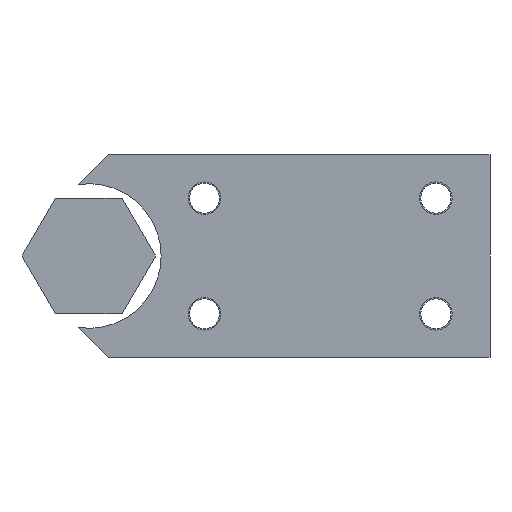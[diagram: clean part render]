
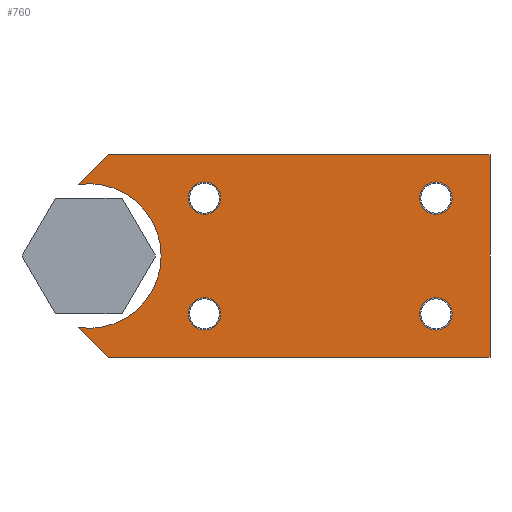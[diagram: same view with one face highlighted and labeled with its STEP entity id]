
A CAD part, left-side view. The second image highlights one B-rep face of the part: STEP entity #760.
In plain terms, the highlighted planar face has unit normal (-1, 0, 0).
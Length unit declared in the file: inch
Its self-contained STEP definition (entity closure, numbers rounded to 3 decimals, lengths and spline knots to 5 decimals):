
#475=DIRECTION('',(0.,-0.707,-0.707));
#476=VECTOR('',#475,0.36244);
#477=CARTESIAN_POINT('',(-2.8125,8.13687,-0.61872));
#478=LINE('',#477,#476);
#479=CARTESIAN_POINT('',(-2.8125,8.04848,0.));
#480=DIRECTION('',(1.,0.,0.));
#481=DIRECTION('',(0.,0.141,0.99));
#482=AXIS2_PLACEMENT_3D('',#479,#480,#481);
#484=DIRECTION('',(0.,0.707,-0.707));
#485=VECTOR('',#484,0.36244);
#486=CARTESIAN_POINT('',(-2.8125,7.88059,0.875));
#487=LINE('',#486,#485);
#488=DIRECTION('',(0.,1.,0.));
#489=VECTOR('',#488,3.29961);
#490=CARTESIAN_POINT('',(-2.8125,4.58098,0.875));
#491=LINE('',#490,#489);
#492=DIRECTION('',(0.,0.,1.));
#493=VECTOR('',#492,1.75);
#494=CARTESIAN_POINT('',(-2.8125,4.58098,-0.875));
#495=LINE('',#494,#493);
#496=DIRECTION('',(0.,-1.,0.));
#497=VECTOR('',#496,3.29961);
#498=CARTESIAN_POINT('',(-2.8125,7.88059,-0.875));
#499=LINE('',#498,#497);
#500=CARTESIAN_POINT('',(-2.8125,7.04848,-0.5));
#501=DIRECTION('',(1.,0.,0.));
#502=DIRECTION('',(0.,-1.,0.));
#503=AXIS2_PLACEMENT_3D('',#500,#501,#502);
#505=CARTESIAN_POINT('',(-2.8125,7.04848,-0.5));
#506=DIRECTION('',(1.,0.,0.));
#507=DIRECTION('',(0.,1.,0.));
#508=AXIS2_PLACEMENT_3D('',#505,#506,#507);
#510=CARTESIAN_POINT('',(-2.8125,5.04848,-0.5));
#511=DIRECTION('',(1.,0.,0.));
#512=DIRECTION('',(0.,-1.,0.));
#513=AXIS2_PLACEMENT_3D('',#510,#511,#512);
#515=CARTESIAN_POINT('',(-2.8125,5.04848,-0.5));
#516=DIRECTION('',(1.,0.,0.));
#517=DIRECTION('',(0.,1.,0.));
#518=AXIS2_PLACEMENT_3D('',#515,#516,#517);
#520=CARTESIAN_POINT('',(-2.8125,5.04848,0.5));
#521=DIRECTION('',(1.,0.,0.));
#522=DIRECTION('',(0.,-1.,0.));
#523=AXIS2_PLACEMENT_3D('',#520,#521,#522);
#525=CARTESIAN_POINT('',(-2.8125,5.04848,0.5));
#526=DIRECTION('',(1.,0.,0.));
#527=DIRECTION('',(0.,1.,0.));
#528=AXIS2_PLACEMENT_3D('',#525,#526,#527);
#530=CARTESIAN_POINT('',(-2.8125,7.04848,0.5));
#531=DIRECTION('',(1.,0.,0.));
#532=DIRECTION('',(0.,-1.,0.));
#533=AXIS2_PLACEMENT_3D('',#530,#531,#532);
#535=CARTESIAN_POINT('',(-2.8125,7.04848,0.5));
#536=DIRECTION('',(1.,0.,0.));
#537=DIRECTION('',(0.,1.,0.));
#538=AXIS2_PLACEMENT_3D('',#535,#536,#537);
#577=CARTESIAN_POINT('',(-2.8125,8.13687,-0.61872));
#579=VERTEX_POINT('',#577);
#582=CARTESIAN_POINT('',(-2.8125,7.88059,-0.875));
#583=VERTEX_POINT('',#582);
#584=CARTESIAN_POINT('',(-2.8125,8.13687,0.61872));
#585=VERTEX_POINT('',#584);
#590=CARTESIAN_POINT('',(-2.8125,4.58098,-0.875));
#591=VERTEX_POINT('',#590);
#592=CARTESIAN_POINT('',(-2.8125,7.88059,0.875));
#594=VERTEX_POINT('',#592);
#598=CARTESIAN_POINT('',(-2.8125,4.58098,0.875));
#599=VERTEX_POINT('',#598);
#600=CARTESIAN_POINT('',(-2.8125,7.18911,-0.5));
#602=VERTEX_POINT('',#600);
#604=CARTESIAN_POINT('',(-2.8125,6.90786,-0.5));
#606=VERTEX_POINT('',#604);
#608=CARTESIAN_POINT('',(-2.8125,7.18911,0.5));
#610=VERTEX_POINT('',#608);
#612=CARTESIAN_POINT('',(-2.8125,6.90786,0.5));
#614=VERTEX_POINT('',#612);
#616=CARTESIAN_POINT('',(-2.8125,5.18911,-0.5));
#618=VERTEX_POINT('',#616);
#620=CARTESIAN_POINT('',(-2.8125,4.90786,-0.5));
#622=VERTEX_POINT('',#620);
#624=CARTESIAN_POINT('',(-2.8125,5.18911,0.5));
#626=VERTEX_POINT('',#624);
#628=CARTESIAN_POINT('',(-2.8125,4.90786,0.5));
#630=VERTEX_POINT('',#628);
#720=CARTESIAN_POINT('',(-2.8125,6.45176,0.));
#721=DIRECTION('',(1.,0.,0.));
#722=DIRECTION('',(0.,-1.,0.));
#723=AXIS2_PLACEMENT_3D('',#720,#721,#722);
#724=PLANE('',#723);
#725=ORIENTED_EDGE('',*,*,#639,.F.);
#726=ORIENTED_EDGE('',*,*,#658,.F.);
#728=ORIENTED_EDGE('',*,*,#727,.F.);
#730=ORIENTED_EDGE('',*,*,#729,.F.);
#732=ORIENTED_EDGE('',*,*,#731,.F.);
#734=ORIENTED_EDGE('',*,*,#733,.F.);
#735=EDGE_LOOP('',(#725,#726,#728,#730,#732,#734));
#736=FACE_OUTER_BOUND('',#735,.F.);
#738=ORIENTED_EDGE('',*,*,#737,.F.);
#740=ORIENTED_EDGE('',*,*,#739,.F.);
#741=EDGE_LOOP('',(#738,#740));
#742=FACE_BOUND('',#741,.F.);
#744=ORIENTED_EDGE('',*,*,#743,.F.);
#746=ORIENTED_EDGE('',*,*,#745,.F.);
#747=EDGE_LOOP('',(#744,#746));
#748=FACE_BOUND('',#747,.F.);
#750=ORIENTED_EDGE('',*,*,#749,.F.);
#752=ORIENTED_EDGE('',*,*,#751,.F.);
#753=EDGE_LOOP('',(#750,#752));
#754=FACE_BOUND('',#753,.F.);
#756=ORIENTED_EDGE('',*,*,#755,.F.);
#757=ORIENTED_EDGE('',*,*,#710,.F.);
#758=EDGE_LOOP('',(#756,#757));
#759=FACE_BOUND('',#758,.F.);
#483=CIRCLE('',#482,0.625);
#504=CIRCLE('',#503,0.14063);
#509=CIRCLE('',#508,0.14063);
#514=CIRCLE('',#513,0.14063);
#519=CIRCLE('',#518,0.14063);
#524=CIRCLE('',#523,0.14063);
#529=CIRCLE('',#528,0.14063);
#534=CIRCLE('',#533,0.14063);
#539=CIRCLE('',#538,0.14063);
#639=EDGE_CURVE('',#579,#583,#478,.T.);
#658=EDGE_CURVE('',#585,#579,#483,.T.);
#710=EDGE_CURVE('',#610,#614,#539,.T.);
#727=EDGE_CURVE('',#594,#585,#487,.T.);
#729=EDGE_CURVE('',#599,#594,#491,.T.);
#731=EDGE_CURVE('',#591,#599,#495,.T.);
#733=EDGE_CURVE('',#583,#591,#499,.T.);
#737=EDGE_CURVE('',#606,#602,#504,.T.);
#739=EDGE_CURVE('',#602,#606,#509,.T.);
#743=EDGE_CURVE('',#622,#618,#514,.T.);
#745=EDGE_CURVE('',#618,#622,#519,.T.);
#749=EDGE_CURVE('',#630,#626,#524,.T.);
#751=EDGE_CURVE('',#626,#630,#529,.T.);
#755=EDGE_CURVE('',#614,#610,#534,.T.);
#760=ADVANCED_FACE('',(#736,#742,#748,#754,#759),#724,.F.);
